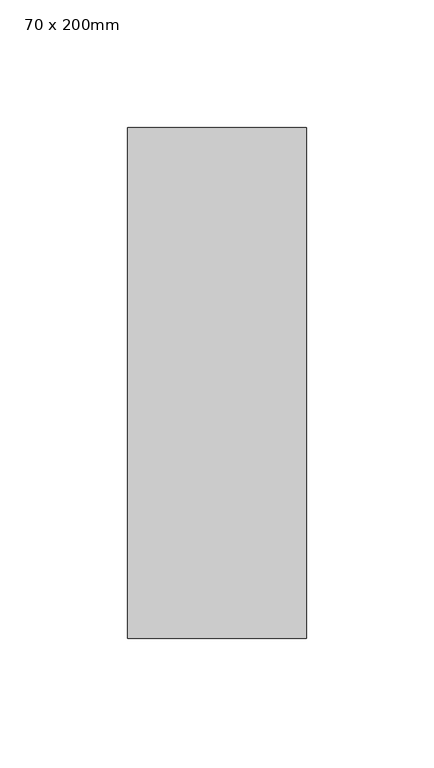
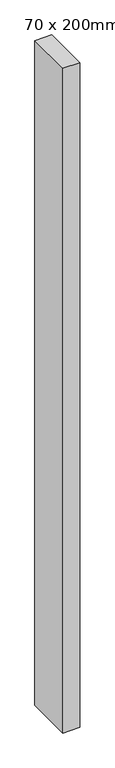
"""IFC4 building model written with IfcOpenShell, lengths in millimetres: member geometry, 矩形竖梃 : 70 x 200mm."""

from ifc_helpers import new_model, si_unit, frame, origin, place, context, project, spatial, polyline, outline, extrude, source, transform, mapped, element, save


def member_70_x_200mm_59cc5c2e(model_context):
    return source(origin(), model_context, "Body", "SweptSolid", [
        extrude(outline(polyline([(0.0, 100.0), (0.0, -100.0), (-70.0, -100.0), (-70.0, 100.0), (0.0, 100.0)])), frame((0.0, 0.0, -2900.0), z_axis=(0.0, 0.0, 1.0), x_axis=(1.0, 0.0, 0.0)), (0.0, 0.0, 1.0), 2900.0),
    ])


if __name__ == "__main__":
    model = new_model("IFC4")
    model_context = context("Model", 3, world=origin())
    ifc_project = project(units=[si_unit("LENGTHUNIT", "METRE", prefix="MILLI")], contexts=[model_context])
    site = spatial("IfcSite", under=ifc_project)
    building = spatial("IfcBuilding", under=site)
    placement = place(None, origin())
    member_70_x_200mm_shape = member_70_x_200mm_59cc5c2e(model_context)
    element("IfcMember", 1, ObjectType="矩形竖梃 : 70 x 200mm", at=placement, inside=building, context=model_context, shape_type="MappedRepresentation", body=[
        mapped(member_70_x_200mm_shape, transform((0.0, 0.0, 0.0), x_axis=(1.0, 0.0, 0.0), y_axis=(0.0, 1.0, 0.0), z_axis=(0.0, 0.0, 1.0))),
    ])
    save(model, "model.ifc")
